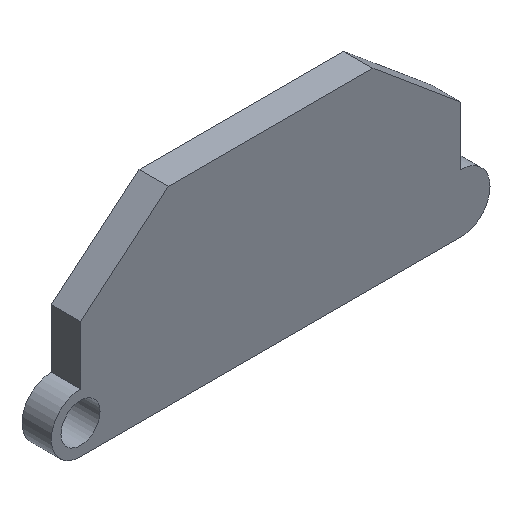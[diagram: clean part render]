
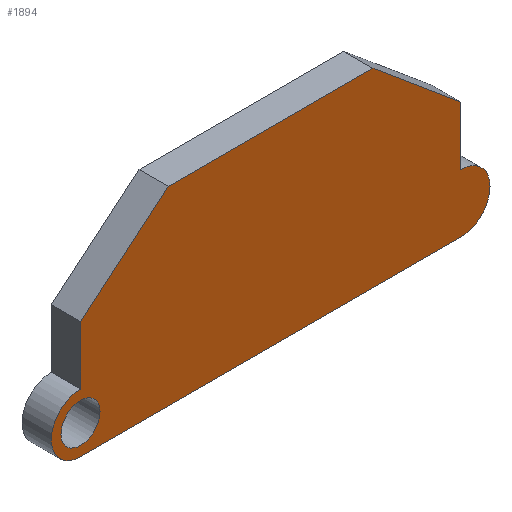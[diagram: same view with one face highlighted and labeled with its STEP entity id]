
A CAD part, isometric view. The second image highlights one B-rep face of the part: STEP entity #1894.
In plain terms, the highlighted planar face has unit normal (0, -1, 0).
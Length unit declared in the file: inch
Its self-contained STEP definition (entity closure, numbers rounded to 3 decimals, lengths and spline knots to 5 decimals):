
#100=PLANE('',#1997);
#311=LINE('',#3091,#535);
#314=LINE('',#3097,#538);
#317=LINE('',#3103,#541);
#320=LINE('',#3112,#544);
#322=LINE('',#3116,#546);
#324=LINE('',#3119,#548);
#535=VECTOR('',#2390,0.5);
#538=VECTOR('',#2395,0.5);
#541=VECTOR('',#2400,3.25);
#544=VECTOR('',#2413,0.97628);
#546=VECTOR('',#2417,1.75);
#548=VECTOR('',#2421,0.97628);
#603=FACE_BOUND('',#828,.T.);
#706=FACE_OUTER_BOUND('',#827,.T.);
#827=EDGE_LOOP('',(#1778,#1779,#1780,#1781,#1782,#1783,#1784,#1785));
#828=EDGE_LOOP('',(#1786));
#829=CIRCLE('',#1898,0.16667);
#837=CIRCLE('',#1990,0.25);
#838=CIRCLE('',#1992,0.25);
#839=VERTEX_POINT('',#2428);
#1005=VERTEX_POINT('',#3089);
#1006=VERTEX_POINT('',#3090);
#1007=VERTEX_POINT('',#3095);
#1008=VERTEX_POINT('',#3096);
#1009=VERTEX_POINT('',#3101);
#1010=VERTEX_POINT('',#3102);
#1011=VERTEX_POINT('',#3111);
#1012=VERTEX_POINT('',#3115);
#1013=EDGE_CURVE('',#839,#839,#829,.T.);
#1255=EDGE_CURVE('',#1005,#1006,#311,.T.);
#1258=EDGE_CURVE('',#1007,#1008,#314,.T.);
#1261=EDGE_CURVE('',#1009,#1010,#317,.T.);
#1264=EDGE_CURVE('',#1006,#1009,#837,.T.);
#1265=EDGE_CURVE('',#1010,#1007,#838,.T.);
#1266=EDGE_CURVE('',#1011,#1005,#320,.T.);
#1268=EDGE_CURVE('',#1012,#1011,#322,.T.);
#1270=EDGE_CURVE('',#1008,#1012,#324,.T.);
#1778=ORIENTED_EDGE('',*,*,#1270,.F.);
#1779=ORIENTED_EDGE('',*,*,#1258,.F.);
#1780=ORIENTED_EDGE('',*,*,#1265,.F.);
#1781=ORIENTED_EDGE('',*,*,#1261,.F.);
#1782=ORIENTED_EDGE('',*,*,#1264,.F.);
#1783=ORIENTED_EDGE('',*,*,#1255,.F.);
#1784=ORIENTED_EDGE('',*,*,#1266,.F.);
#1785=ORIENTED_EDGE('',*,*,#1268,.F.);
#1786=ORIENTED_EDGE('',*,*,#1013,.T.);
#1894=ADVANCED_FACE('',(#706,#603),#100,.F.);
#1898=AXIS2_PLACEMENT_3D('',#2429,#2002,#2003);
#1990=AXIS2_PLACEMENT_3D('',#3107,#2405,#2406);
#1992=AXIS2_PLACEMENT_3D('',#3109,#2409,#2410);
#1997=AXIS2_PLACEMENT_3D('',#3121,#2424,#2425);
#2002=DIRECTION('center_axis',(0.,1.,0.));
#2003=DIRECTION('ref_axis',(-1.,0.,0.));
#2390=DIRECTION('',(0.,0.,-1.));
#2395=DIRECTION('',(0.,0.,1.));
#2400=DIRECTION('',(-1.,0.,0.));
#2405=DIRECTION('center_axis',(0.,1.,0.));
#2406=DIRECTION('ref_axis',(0.,0.,1.));
#2409=DIRECTION('center_axis',(0.,1.,0.));
#2410=DIRECTION('ref_axis',(0.,0.,-1.));
#2413=DIRECTION('',(0.768,0.,-0.64));
#2417=DIRECTION('',(1.,0.,0.));
#2421=DIRECTION('',(0.768,0.,0.64));
#2424=DIRECTION('center_axis',(0.,1.,0.));
#2425=DIRECTION('ref_axis',(0.,0.,1.));
#2428=CARTESIAN_POINT('',(-3.08333,0.,-0.25));
#2429=CARTESIAN_POINT('Origin',(-3.25,0.,-0.25));
#3089=CARTESIAN_POINT('',(0.,0.,0.5));
#3090=CARTESIAN_POINT('',(0.,0.,0.));
#3091=CARTESIAN_POINT('',(0.,0.,0.5));
#3095=CARTESIAN_POINT('',(-3.25,0.,0.));
#3096=CARTESIAN_POINT('',(-3.25,0.,0.5));
#3097=CARTESIAN_POINT('',(-3.25,0.,0.));
#3101=CARTESIAN_POINT('',(0.,0.,-0.5));
#3102=CARTESIAN_POINT('',(-3.25,0.,-0.5));
#3103=CARTESIAN_POINT('',(0.,0.,-0.5));
#3107=CARTESIAN_POINT('Origin',(0.,0.,-0.25));
#3109=CARTESIAN_POINT('Origin',(-3.25,0.,-0.25));
#3111=CARTESIAN_POINT('',(-0.75,0.,1.125));
#3112=CARTESIAN_POINT('',(-0.75,0.,1.125));
#3115=CARTESIAN_POINT('',(-2.5,0.,1.125));
#3116=CARTESIAN_POINT('',(-2.5,0.,1.125));
#3119=CARTESIAN_POINT('',(-3.25,0.,0.5));
#3121=CARTESIAN_POINT('Origin',(-1.625,0.,0.74508));
